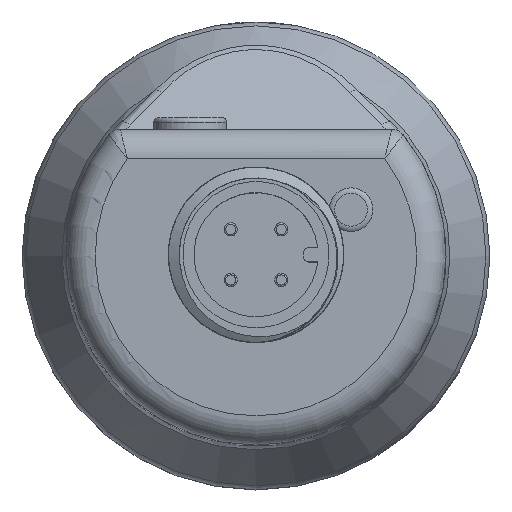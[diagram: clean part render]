
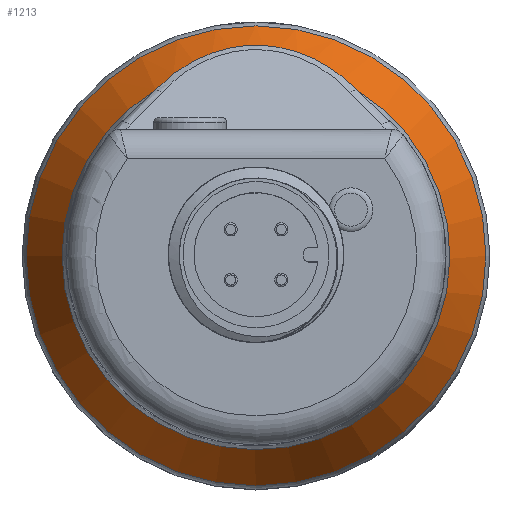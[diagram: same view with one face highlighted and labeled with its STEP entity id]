
A CAD part, top view. The second image highlights one B-rep face of the part: STEP entity #1213.
In plain terms, the highlighted conical face has half-angle 30 degrees and reference radius 13 mm.
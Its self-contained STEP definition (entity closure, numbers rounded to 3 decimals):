
#87=CONICAL_SURFACE('',#4462,13.,30.);
#174=B_SPLINE_CURVE_WITH_KNOTS('',3,(#11321,#11322,#11323,#11324,#11325,
#11326),.UNSPECIFIED.,.F.,.F.,(4,2,4),(0.,0.5,1.),.UNSPECIFIED.);
#962=FACE_BOUND('',#1857,.T.);
#963=FACE_BOUND('',#1858,.T.);
#1213=ADVANCED_FACE('',(#962,#963),#87,.T.);
#1857=EDGE_LOOP('',(#2685,#2686));
#1858=EDGE_LOOP('',(#2687));
#2685=ORIENTED_EDGE('',*,*,#3563,.T.);
#2686=ORIENTED_EDGE('',*,*,#3775,.T.);
#2687=ORIENTED_EDGE('',*,*,#3776,.T.);
#3155=VERTEX_POINT('',#9285);
#3156=VERTEX_POINT('',#9286);
#3296=VERTEX_POINT('',#11328);
#3563=EDGE_CURVE('',#3155,#3156,#4054,.T.);
#3775=EDGE_CURVE('',#3156,#3155,#174,.T.);
#3776=EDGE_CURVE('',#3296,#3296,#4106,.T.);
#4054=CIRCLE('',#4316,13.268);
#4106=CIRCLE('',#4461,15.732);
#4316=AXIS2_PLACEMENT_3D('',#9284,#4959,#4960);
#4461=AXIS2_PLACEMENT_3D('',#11327,#5348,#5349);
#4462=AXIS2_PLACEMENT_3D('',#11329,#5350,#5351);
#4959=DIRECTION('',(0.,0.,-1.));
#4960=DIRECTION('',(1.,0.,0.));
#5348=DIRECTION('',(0.,0.,1.));
#5349=DIRECTION('',(-1.,0.,0.));
#5350=DIRECTION('',(0.,0.,-1.));
#5351=DIRECTION('',(-1.,0.,0.));
#9284=CARTESIAN_POINT('',(0.,0.,14.836));
#9285=CARTESIAN_POINT('',(6.871,11.351,14.836));
#9286=CARTESIAN_POINT('',(-6.871,11.351,14.836));
#11321=CARTESIAN_POINT('',(-6.871,11.351,14.836));
#11322=CARTESIAN_POINT('',(-4.963,13.397,13.515));
#11323=CARTESIAN_POINT('',(-2.317,14.41,12.854));
#11324=CARTESIAN_POINT('',(2.291,14.417,12.849));
#11325=CARTESIAN_POINT('',(4.956,13.404,13.511));
#11326=CARTESIAN_POINT('',(6.871,11.351,14.836));
#11327=CARTESIAN_POINT('',(0.,0.,10.568));
#11328=CARTESIAN_POINT('',(-15.732,0.,10.568));
#11329=CARTESIAN_POINT('',(0.,0.,15.3));
